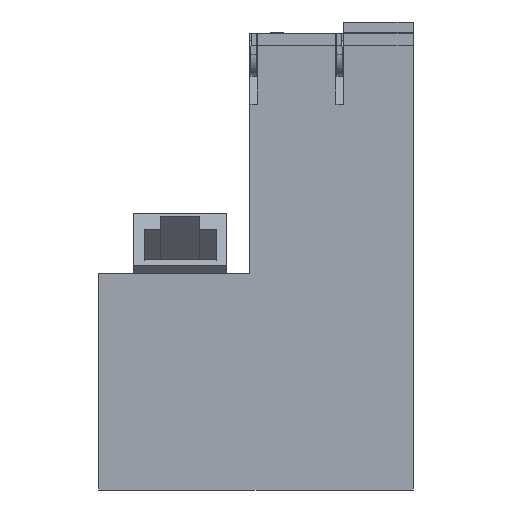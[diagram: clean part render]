
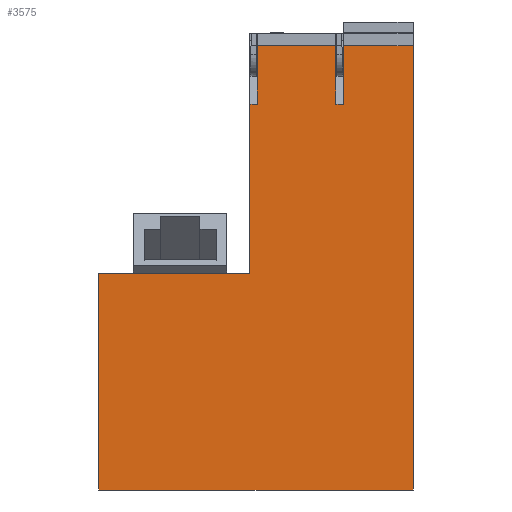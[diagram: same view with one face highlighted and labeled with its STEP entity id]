
A CAD part, front view. The second image highlights one B-rep face of the part: STEP entity #3575.
In plain terms, the highlighted planar face has unit normal (0, -1, 0).
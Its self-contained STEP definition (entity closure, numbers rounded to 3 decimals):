
#1=DIRECTION('',(0.,0.,-1.));
#2=VECTOR('',#1,35.902);
#3=CARTESIAN_POINT('',(-26.,-59.75,28.902));
#4=LINE('',#3,#2);
#43=DIRECTION('',(0.,0.,1.));
#44=VECTOR('',#43,9.689);
#45=CARTESIAN_POINT('',(14.5,-59.75,56.859));
#46=LINE('',#45,#44);
#47=DIRECTION('',(0.,0.,-1.));
#48=VECTOR('',#47,73.548);
#49=CARTESIAN_POINT('',(26.,-59.75,66.548));
#50=LINE('',#49,#48);
#51=DIRECTION('',(-1.,0.,0.));
#52=VECTOR('',#51,52.);
#53=CARTESIAN_POINT('',(26.,-59.75,-7.));
#54=LINE('',#53,#52);
#55=DIRECTION('',(0.,0.,-1.));
#56=VECTOR('',#55,9.689);
#57=CARTESIAN_POINT('',(13.2,-59.75,66.548));
#58=LINE('',#57,#56);
#59=DIRECTION('',(-1.,0.,0.));
#60=VECTOR('',#59,1.3);
#61=CARTESIAN_POINT('',(14.5,-59.75,56.859));
#62=LINE('',#61,#60);
#115=DIRECTION('',(-1.,0.,0.));
#116=VECTOR('',#115,13.);
#117=CARTESIAN_POINT('',(13.2,-59.75,66.548));
#118=LINE('',#117,#116);
#159=DIRECTION('',(0.,0.,-1.));
#160=VECTOR('',#159,9.689);
#161=CARTESIAN_POINT('',(0.2,-59.75,66.548));
#162=LINE('',#161,#160);
#163=DIRECTION('',(-1.,0.,0.));
#164=VECTOR('',#163,1.2);
#165=CARTESIAN_POINT('',(0.2,-59.75,56.859));
#166=LINE('',#165,#164);
#187=DIRECTION('',(0.,0.,-1.));
#188=VECTOR('',#187,27.957);
#189=CARTESIAN_POINT('',(-1.,-59.75,56.859));
#190=LINE('',#189,#188);
#390=DIRECTION('',(-1.,0.,0.));
#391=VECTOR('',#390,11.5);
#392=CARTESIAN_POINT('',(26.,-59.75,66.548));
#393=LINE('',#392,#391);
#1659=DIRECTION('',(-1.,0.,0.));
#1660=VECTOR('',#1659,25.);
#1661=CARTESIAN_POINT('',(-1.,-59.75,28.902));
#1662=LINE('',#1661,#1660);
#2663=CARTESIAN_POINT('',(-26.,-59.75,28.902));
#2664=CARTESIAN_POINT('',(-26.,-59.75,-7.));
#2665=VERTEX_POINT('',#2663);
#2666=VERTEX_POINT('',#2664);
#2683=CARTESIAN_POINT('',(14.5,-59.75,56.859));
#2684=CARTESIAN_POINT('',(13.2,-59.75,56.859));
#2685=VERTEX_POINT('',#2683);
#2686=VERTEX_POINT('',#2684);
#2687=CARTESIAN_POINT('',(14.5,-59.75,66.548));
#2688=VERTEX_POINT('',#2687);
#2689=CARTESIAN_POINT('',(26.,-59.75,66.548));
#2690=VERTEX_POINT('',#2689);
#2691=CARTESIAN_POINT('',(26.,-59.75,-7.));
#2692=VERTEX_POINT('',#2691);
#2693=CARTESIAN_POINT('',(-1.,-59.75,28.902));
#2694=VERTEX_POINT('',#2693);
#2695=CARTESIAN_POINT('',(-1.,-59.75,56.859));
#2696=VERTEX_POINT('',#2695);
#2697=CARTESIAN_POINT('',(0.2,-59.75,56.859));
#2698=VERTEX_POINT('',#2697);
#2699=CARTESIAN_POINT('',(0.2,-59.75,66.548));
#2700=VERTEX_POINT('',#2699);
#2701=CARTESIAN_POINT('',(13.2,-59.75,66.548));
#2702=VERTEX_POINT('',#2701);
#3545=CARTESIAN_POINT('',(-26.,-59.75,-7.));
#3546=DIRECTION('',(0.,-1.,0.));
#3547=DIRECTION('',(0.,0.,1.));
#3548=AXIS2_PLACEMENT_3D('',#3545,#3546,#3547);
#3549=PLANE('',#3548);
#3551=ORIENTED_EDGE('',*,*,#3550,.F.);
#3553=ORIENTED_EDGE('',*,*,#3552,.T.);
#3555=ORIENTED_EDGE('',*,*,#3554,.F.);
#3557=ORIENTED_EDGE('',*,*,#3556,.T.);
#3559=ORIENTED_EDGE('',*,*,#3558,.T.);
#3560=ORIENTED_EDGE('',*,*,#3522,.F.);
#3562=ORIENTED_EDGE('',*,*,#3561,.F.);
#3564=ORIENTED_EDGE('',*,*,#3563,.F.);
#3566=ORIENTED_EDGE('',*,*,#3565,.F.);
#3568=ORIENTED_EDGE('',*,*,#3567,.F.);
#3570=ORIENTED_EDGE('',*,*,#3569,.F.);
#3572=ORIENTED_EDGE('',*,*,#3571,.T.);
#3573=EDGE_LOOP('',(#3551,#3553,#3555,#3557,#3559,#3560,#3562,#3564,#3566,#3568,
#3570,#3572));
#3574=FACE_OUTER_BOUND('',#3573,.F.);
#3575=ADVANCED_FACE('',(#3574),#3549,.T.);
#3522=EDGE_CURVE('',#2665,#2666,#4,.T.);
#3550=EDGE_CURVE('',#2685,#2686,#62,.T.);
#3552=EDGE_CURVE('',#2685,#2688,#46,.T.);
#3554=EDGE_CURVE('',#2690,#2688,#393,.T.);
#3556=EDGE_CURVE('',#2690,#2692,#50,.T.);
#3558=EDGE_CURVE('',#2692,#2666,#54,.T.);
#3561=EDGE_CURVE('',#2694,#2665,#1662,.T.);
#3563=EDGE_CURVE('',#2696,#2694,#190,.T.);
#3565=EDGE_CURVE('',#2698,#2696,#166,.T.);
#3567=EDGE_CURVE('',#2700,#2698,#162,.T.);
#3569=EDGE_CURVE('',#2702,#2700,#118,.T.);
#3571=EDGE_CURVE('',#2702,#2686,#58,.T.);
